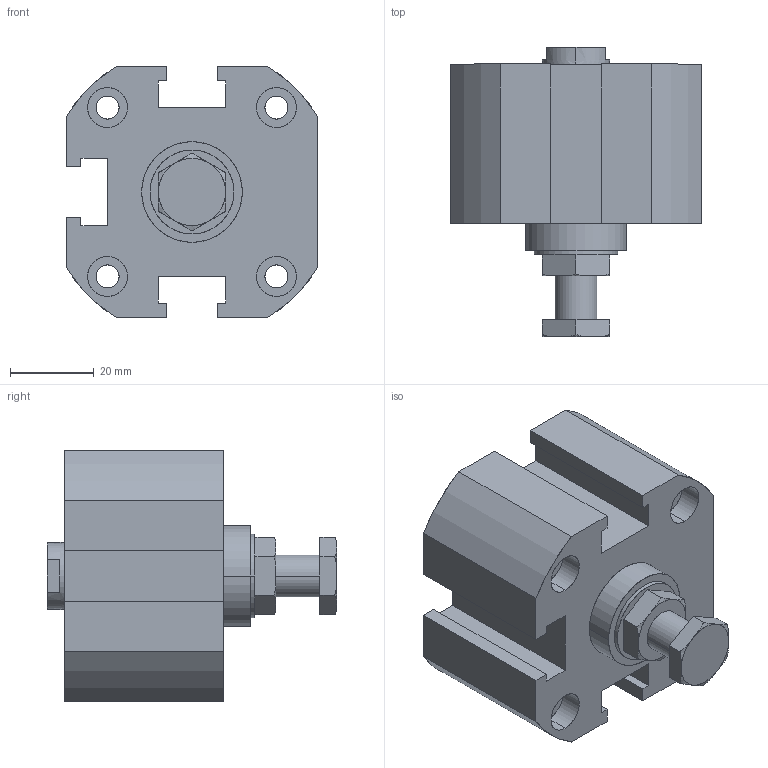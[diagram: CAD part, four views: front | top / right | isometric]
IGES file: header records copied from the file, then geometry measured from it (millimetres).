
Start section: SolidWorks IGES file using analytic representation for surfaces
Global section: file name: C:\Users\Toshiba\Desktop\XCA2-40-10.IGS; native system: SolidWorks 2014; preprocessor: SolidWorks 2014; author: Toshiba; date: 160524.103111; units: millimetre
Bounding box: 60 x 69 x 60 mm (x, y, z)
Surface area: 24128.6 mm2 (no closed solid volume)
Topology: 0 solids, 0 shells, 150 faces, 2674 edges, 2668 vertices
Faces by surface type: bspline 80, revolution 70
